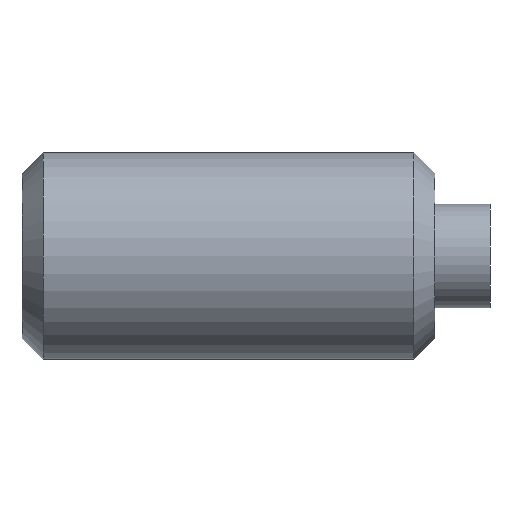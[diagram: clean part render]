
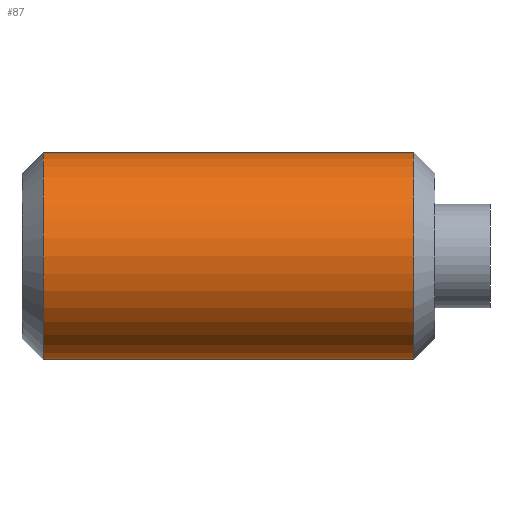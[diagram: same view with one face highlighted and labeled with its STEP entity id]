
A CAD part, left-side view. The second image highlights one B-rep face of the part: STEP entity #87.
In plain terms, the highlighted cylindrical face has radius 1.5 mm (diameter 3 mm), a full revolution.
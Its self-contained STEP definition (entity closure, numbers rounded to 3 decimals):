
#87 = ADVANCED_FACE( '', ( #118, #119 ), #120, .T. );
#118 = FACE_OUTER_BOUND( '', #152, .T. );
#119 = FACE_OUTER_BOUND( '', #153, .T. );
#120 = CYLINDRICAL_SURFACE( '', #154, 1.5 );
#152 = EDGE_LOOP( '', ( #238 ) );
#153 = EDGE_LOOP( '', ( #239 ) );
#154 = AXIS2_PLACEMENT_3D( '', #240, #241, #242 );
#238 = ORIENTED_EDGE( '', *, *, #270, .F. );
#239 = ORIENTED_EDGE( '', *, *, #271, .T. );
#240 = CARTESIAN_POINT( '', ( 0., 0., 0. ) );
#241 = DIRECTION( '', ( 0., 1., 0. ) );
#242 = DIRECTION( '', ( 0., 0., -1. ) );
#270 = EDGE_CURVE( '', #310, #310, #311, .T. );
#271 = EDGE_CURVE( '', #312, #312, #313, .T. );
#310 = VERTEX_POINT( '', #370 );
#311 = CIRCLE( '', #371, 1.5 );
#312 = VERTEX_POINT( '', #372 );
#313 = CIRCLE( '', #373, 1.5 );
#370 = CARTESIAN_POINT( '', ( 0., 1.107, -1.5 ) );
#371 = AXIS2_PLACEMENT_3D( '', #404, #405, #406 );
#372 = CARTESIAN_POINT( '', ( 0., 6.494, -1.5 ) );
#373 = AXIS2_PLACEMENT_3D( '', #407, #408, #409 );
#404 = CARTESIAN_POINT( '', ( 0., 1.107, 0. ) );
#405 = DIRECTION( '', ( 0., -1., 0. ) );
#406 = DIRECTION( '', ( 0., 0., -1. ) );
#407 = CARTESIAN_POINT( '', ( 0., 6.494, 0. ) );
#408 = DIRECTION( '', ( 0., -1., 0. ) );
#409 = DIRECTION( '', ( 0., 0., -1. ) );
